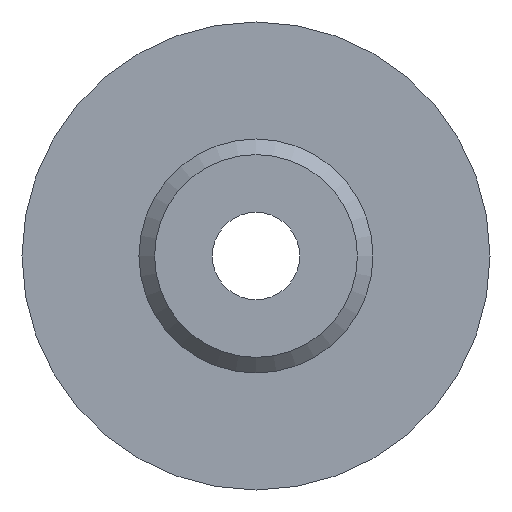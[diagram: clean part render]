
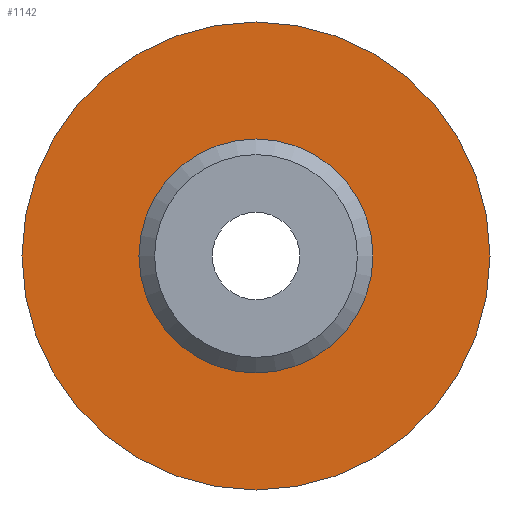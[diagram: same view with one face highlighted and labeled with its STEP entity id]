
A CAD part, front view. The second image highlights one B-rep face of the part: STEP entity #1142.
In plain terms, the highlighted planar face has unit normal (0, -1, 0).
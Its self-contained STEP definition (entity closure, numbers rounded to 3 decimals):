
#10 = FACE_OUTER_BOUND ( 'NONE', #784, .T. ) ;
#185 = DIRECTION ( 'NONE',  ( 0., 0., -1. ) ) ;
#243 = VERTEX_POINT ( 'NONE', #255 ) ;
#255 = CARTESIAN_POINT ( 'NONE',  ( 0., 6.5, -7.5 ) ) ;
#279 = PLANE ( 'NONE',  #1235 ) ;
#344 = CIRCLE ( 'NONE', #830, 7.5 ) ;
#354 = CARTESIAN_POINT ( 'NONE',  ( 0., 6.5, -3.75 ) ) ;
#370 = EDGE_LOOP ( 'NONE', ( #405 ) ) ;
#376 = ORIENTED_EDGE ( 'NONE', *, *, #1025, .T. ) ;
#385 = CARTESIAN_POINT ( 'NONE',  ( -3.75, 6.5, 0. ) ) ;
#393 = DIRECTION ( 'NONE',  ( 0., 0., 1. ) ) ;
#405 = ORIENTED_EDGE ( 'NONE', *, *, #662, .F. ) ;
#501 = FACE_BOUND ( 'NONE', #370, .T. ) ;
#566 = CARTESIAN_POINT ( 'NONE',  ( 0., 6.5, 0. ) ) ;
#662 = EDGE_CURVE ( 'NONE', #765, #765, #911, .T. ) ;
#765 = VERTEX_POINT ( 'NONE', #354 ) ;
#768 = DIRECTION ( 'NONE',  ( 0., -1., 0. ) ) ;
#784 = EDGE_LOOP ( 'NONE', ( #376 ) ) ;
#830 = AXIS2_PLACEMENT_3D ( 'NONE', #566, #768, #1179 ) ;
#911 = CIRCLE ( 'NONE', #1017, 3.75 ) ;
#1017 = AXIS2_PLACEMENT_3D ( 'NONE', #1082, #1290, #185 ) ;
#1025 = EDGE_CURVE ( 'NONE', #243, #243, #344, .T. ) ;
#1082 = CARTESIAN_POINT ( 'NONE',  ( 0., 6.5, 0. ) ) ;
#1089 = DIRECTION ( 'NONE',  ( 0., 1., 0. ) ) ;
#1142 = ADVANCED_FACE ( 'NONE', ( #501, #10 ), #279, .F. ) ;
#1179 = DIRECTION ( 'NONE',  ( 0., 0., -1. ) ) ;
#1235 = AXIS2_PLACEMENT_3D ( 'NONE', #385, #1089, #393 ) ;
#1290 = DIRECTION ( 'NONE',  ( 0., -1., 0. ) ) ;
